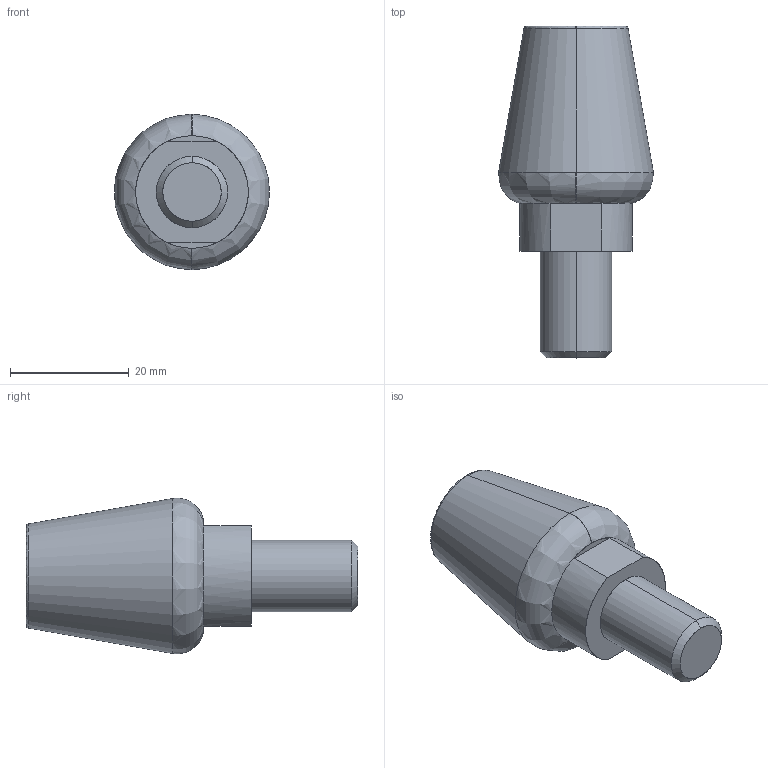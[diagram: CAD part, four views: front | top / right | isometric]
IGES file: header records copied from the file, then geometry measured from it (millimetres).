
Start section: START RECORD GO HERE.
Global section: file name: 384F-1_1.igs; native system: DASSAULT SYSTEMES CATIA V5 R20 - www.3ds.com; preprocessor: CATIA Version 5 Release 20 ; author: Utente; organization: NB04-ASUS; date: 20200409.082239; units: millimetre
Bounding box: 26.14 x 56 x 26.27 mm (x, y, z)
Surface area: 3979 mm2 (no closed solid volume)
Topology: 0 solids, 0 shells, 33 faces, 148 edges, 146 vertices
Faces by surface type: extrusion 19, revolution 14
